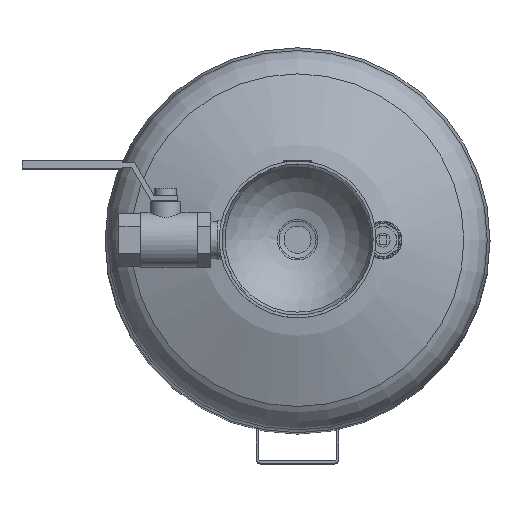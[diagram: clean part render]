
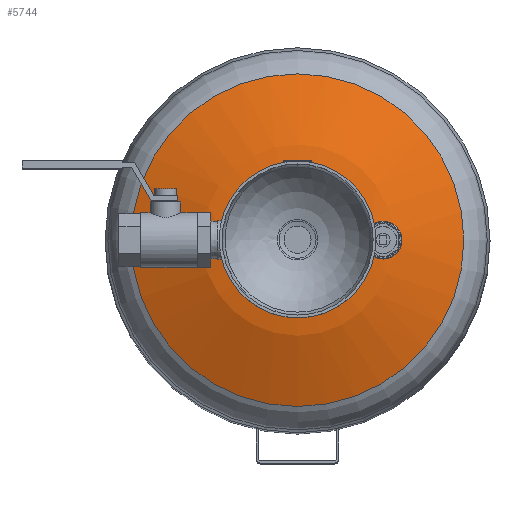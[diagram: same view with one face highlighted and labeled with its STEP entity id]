
A CAD part, top view. The second image highlights one B-rep face of the part: STEP entity #5744.
In plain terms, the highlighted spherical face has radius 272.5 mm.
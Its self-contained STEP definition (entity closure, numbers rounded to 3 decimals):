
#14=SPHERICAL_SURFACE('',#6302,272.5);
#83=FACE_BOUND('',#1120,.T.);
#109=B_SPLINE_CURVE_WITH_KNOTS('',3,(#9454,#9455,#9456,#9457,#9458,#9459,
#9460,#9461,#9462,#9463,#9464,#9465,#9466,#9467,#9468,#9469,#9470,#9471),
 .UNSPECIFIED.,.F.,.F.,(4,2,2,2,2,2,2,2,4),(0.,0.498,0.997,
1.509,2.021,2.534,3.046,3.545,
4.043),.UNSPECIFIED.);
#110=B_SPLINE_CURVE_WITH_KNOTS('',3,(#9472,#9473,#9474,#9475,#9476,#9477,
#9478,#9479,#9480,#9481,#9482,#9483,#9484,#9485,#9486,#9487,#9488,#9489),
 .UNSPECIFIED.,.F.,.F.,(4,2,2,2,2,2,2,2,4),(4.043,4.542,
5.04,5.553,6.065,6.578,7.09,
7.588,8.087),.UNSPECIFIED.);
#317=CIRCLE('',#6299,116.661);
#318=CIRCLE('',#6300,116.661);
#320=CIRCLE('',#6303,15.019);
#321=CIRCLE('',#6304,15.019);
#322=CIRCLE('',#6305,272.5);
#758=FACE_OUTER_BOUND('',#1119,.T.);
#1119=EDGE_LOOP('',(#4882,#4883,#4884,#4885,#4886,#4887));
#1120=EDGE_LOOP('',(#4888,#4889));
#2528=VERTEX_POINT('',#9452);
#2529=VERTEX_POINT('',#9453);
#2640=VERTEX_POINT('',#9838);
#2641=VERTEX_POINT('',#9839);
#2642=VERTEX_POINT('',#9844);
#2643=VERTEX_POINT('',#9845);
#3248=EDGE_CURVE('',#2528,#2529,#109,.T.);
#3249=EDGE_CURVE('',#2529,#2528,#110,.T.);
#3420=EDGE_CURVE('',#2640,#2641,#317,.T.);
#3421=EDGE_CURVE('',#2641,#2640,#318,.T.);
#3423=EDGE_CURVE('',#2642,#2643,#320,.T.);
#3424=EDGE_CURVE('',#2643,#2642,#321,.T.);
#3425=EDGE_CURVE('',#2643,#2641,#322,.T.);
#4882=ORIENTED_EDGE('',*,*,#3423,.F.);
#4883=ORIENTED_EDGE('',*,*,#3424,.F.);
#4884=ORIENTED_EDGE('',*,*,#3425,.T.);
#4885=ORIENTED_EDGE('',*,*,#3421,.T.);
#4886=ORIENTED_EDGE('',*,*,#3420,.T.);
#4887=ORIENTED_EDGE('',*,*,#3425,.F.);
#4888=ORIENTED_EDGE('',*,*,#3248,.T.);
#4889=ORIENTED_EDGE('',*,*,#3249,.T.);
#5744=ADVANCED_FACE('',(#758,#83),#14,.T.);
#6299=AXIS2_PLACEMENT_3D('',#9840,#7881,#7882);
#6300=AXIS2_PLACEMENT_3D('',#9841,#7883,#7884);
#6302=AXIS2_PLACEMENT_3D('',#9843,#7887,#7888);
#6303=AXIS2_PLACEMENT_3D('',#9846,#7889,#7890);
#6304=AXIS2_PLACEMENT_3D('',#9847,#7891,#7892);
#6305=AXIS2_PLACEMENT_3D('',#9848,#7893,#7894);
#7881=DIRECTION('center_axis',(0.,0.,1.));
#7882=DIRECTION('ref_axis',(1.,0.,0.));
#7883=DIRECTION('center_axis',(0.,0.,1.));
#7884=DIRECTION('ref_axis',(1.,0.,0.));
#7887=DIRECTION('center_axis',(0.,0.,1.));
#7888=DIRECTION('ref_axis',(1.,0.,0.));
#7889=DIRECTION('center_axis',(0.,0.,1.));
#7890=DIRECTION('ref_axis',(1.,0.,0.));
#7891=DIRECTION('center_axis',(0.,0.,1.));
#7892=DIRECTION('ref_axis',(1.,0.,0.));
#7893=DIRECTION('center_axis',(0.,-1.,0.));
#7894=DIRECTION('ref_axis',(-1.,0.,0.));
#9452=CARTESIAN_POINT('',(46.75,0.,825.336));
#9453=CARTESIAN_POINT('',(73.25,0.,819.347));
#9454=CARTESIAN_POINT('Ctrl Pts',(46.75,0.,
825.336));
#9455=CARTESIAN_POINT('Ctrl Pts',(46.75,1.662,825.336));
#9456=CARTESIAN_POINT('Ctrl Pts',(47.082,3.431,825.262));
#9457=CARTESIAN_POINT('Ctrl Pts',(48.422,6.679,824.962));
#9458=CARTESIAN_POINT('Ctrl Pts',(49.431,8.158,824.737));
#9459=CARTESIAN_POINT('Ctrl Pts',(51.773,10.522,824.212));
#9460=CARTESIAN_POINT('Ctrl Pts',(53.274,11.553,823.875));
#9461=CARTESIAN_POINT('Ctrl Pts',(56.555,12.917,823.136));
#9462=CARTESIAN_POINT('Ctrl Pts',(58.334,13.25,822.735));
#9463=CARTESIAN_POINT('Ctrl Pts',(61.666,13.25,821.982));
#9464=CARTESIAN_POINT('Ctrl Pts',(63.446,12.917,821.579));
#9465=CARTESIAN_POINT('Ctrl Pts',(66.727,11.553,820.834));
#9466=CARTESIAN_POINT('Ctrl Pts',(68.229,10.521,820.492));
#9467=CARTESIAN_POINT('Ctrl Pts',(70.57,8.157,819.959));
#9468=CARTESIAN_POINT('Ctrl Pts',(71.578,6.678,819.729));
#9469=CARTESIAN_POINT('Ctrl Pts',(72.918,3.431,819.423));
#9470=CARTESIAN_POINT('Ctrl Pts',(73.25,1.662,819.347));
#9471=CARTESIAN_POINT('Ctrl Pts',(73.25,0.,
819.347));
#9472=CARTESIAN_POINT('Ctrl Pts',(73.25,0.,
819.347));
#9473=CARTESIAN_POINT('Ctrl Pts',(73.25,-1.662,819.347));
#9474=CARTESIAN_POINT('Ctrl Pts',(72.918,-3.431,819.423));
#9475=CARTESIAN_POINT('Ctrl Pts',(71.578,-6.678,819.729));
#9476=CARTESIAN_POINT('Ctrl Pts',(70.57,-8.157,819.959));
#9477=CARTESIAN_POINT('Ctrl Pts',(68.229,-10.521,820.492));
#9478=CARTESIAN_POINT('Ctrl Pts',(66.727,-11.553,820.834));
#9479=CARTESIAN_POINT('Ctrl Pts',(63.446,-12.917,821.579));
#9480=CARTESIAN_POINT('Ctrl Pts',(61.666,-13.25,821.982));
#9481=CARTESIAN_POINT('Ctrl Pts',(58.334,-13.25,822.735));
#9482=CARTESIAN_POINT('Ctrl Pts',(56.555,-12.917,823.136));
#9483=CARTESIAN_POINT('Ctrl Pts',(53.274,-11.553,823.875));
#9484=CARTESIAN_POINT('Ctrl Pts',(51.773,-10.522,824.212));
#9485=CARTESIAN_POINT('Ctrl Pts',(49.431,-8.158,824.737));
#9486=CARTESIAN_POINT('Ctrl Pts',(48.422,-6.679,824.962));
#9487=CARTESIAN_POINT('Ctrl Pts',(47.082,-3.431,825.262));
#9488=CARTESIAN_POINT('Ctrl Pts',(46.75,-1.662,825.336));
#9489=CARTESIAN_POINT('Ctrl Pts',(46.75,0.,
825.336));
#9838=CARTESIAN_POINT('',(116.661,0.,803.141));
#9839=CARTESIAN_POINT('',(-116.661,0.,803.141));
#9840=CARTESIAN_POINT('Origin',(0.,0.,803.141));
#9841=CARTESIAN_POINT('Origin',(0.,0.,803.141));
#9843=CARTESIAN_POINT('Origin',(0.,0.,556.876));
#9844=CARTESIAN_POINT('',(15.019,0.,828.962));
#9845=CARTESIAN_POINT('',(-15.019,0.,828.962));
#9846=CARTESIAN_POINT('Origin',(0.,0.,828.962));
#9847=CARTESIAN_POINT('Origin',(0.,0.,828.962));
#9848=CARTESIAN_POINT('Origin',(0.,0.,556.876));
